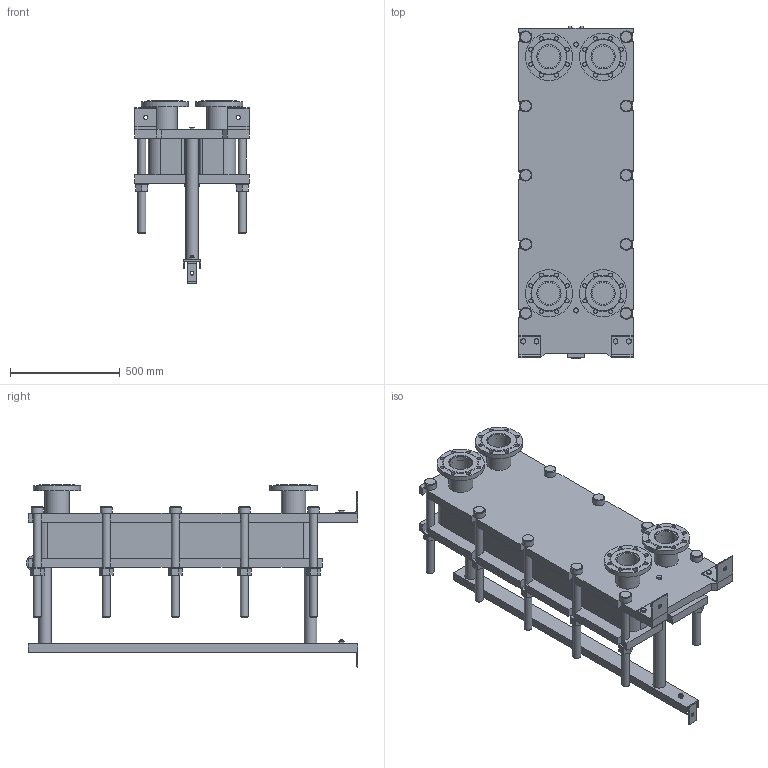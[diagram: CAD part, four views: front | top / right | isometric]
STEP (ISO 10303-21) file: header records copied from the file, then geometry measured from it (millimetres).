
FILE_DESCRIPTION(/* description */ (''),/* implementation_level */ '2;1');
FILE_NAME(/* name */ 'C:\Users\zhuro\Desktop\ENCO\TO\ЭН-04\ЭН-0,5-04-48-1.stp',/* time_stamp */ '2022-06-06T10:48:16+03:00',/* author */ ('zhuro'),/* organization */ (''),/* preprocessor_version */ 'ST-DEVELOPER v18.1',/* originating_system */ 'Autodesk Inventor 2022',/* authorisation */ '');
FILE_SCHEMA (('AUTOMOTIVE_DESIGN { 1 0 10303 214 3 1 1 }'));
Length unit declared in the file: millimetre
Products named in the file (1): ЭН-0,5-04-48-1
Bounding box: 520 x 1510 x 829 mm (x, y, z)
Volume: 151166210.8 mm3; surface area: 7211777 mm2
Topology: 45 solids, 45 shells, 668 faces, 1611 edges, 1048 vertices
Faces by surface type: plane 457, cylinder 166, cone 39, torus 6
Full cylindrical faces by diameter (mm): 8 x4, 10 x2, 16 x8, 18 x35, 36 x25, 40 x2, 42 x1, 45 x4, 54 x10, 57 x2, 60 x10, 68 x2, 100 x4, 110 x8, 215 x4
Entity records: 23607 total; most frequent: CARTESIAN_POINT 7348, DIRECTION 3371, ORIENTED_EDGE 3142, EDGE_CURVE 1571, AXIS2_PLACEMENT_3D 1199, VERTEX_POINT 1044, LINE 973, VECTOR 973
